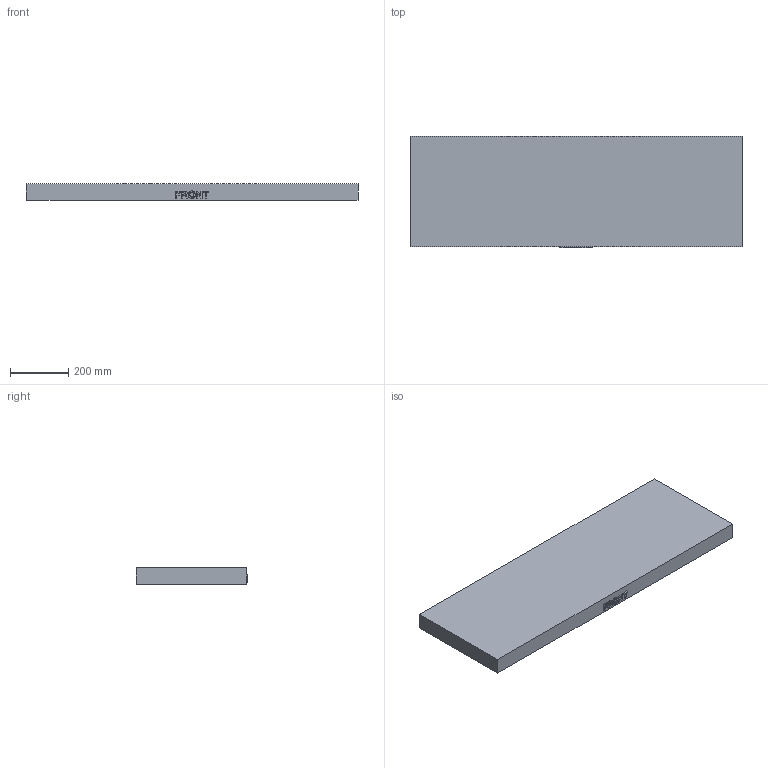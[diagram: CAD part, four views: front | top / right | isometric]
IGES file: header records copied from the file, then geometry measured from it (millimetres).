
Start section: Comment
Global section: file name: 3200-lid_internal_tub.igs; native system:  By UGS Corp.; preprocessor: XPlus GENERIC/IGES 3.0; author: Author; organization: Title; date: 20100514.161902; units: millimetre
Bounding box: 1143 x 384.18 x 57.15 mm (x, y, z)
Surface area: 1174146.7 mm2 (no closed solid volume)
Topology: 0 solids, 0 shells, 418 faces, 2072 edges, 2047 vertices
Faces by surface type: bspline 418
